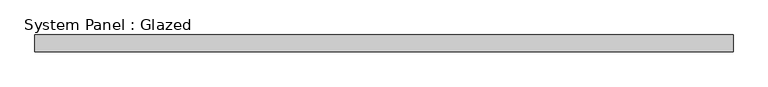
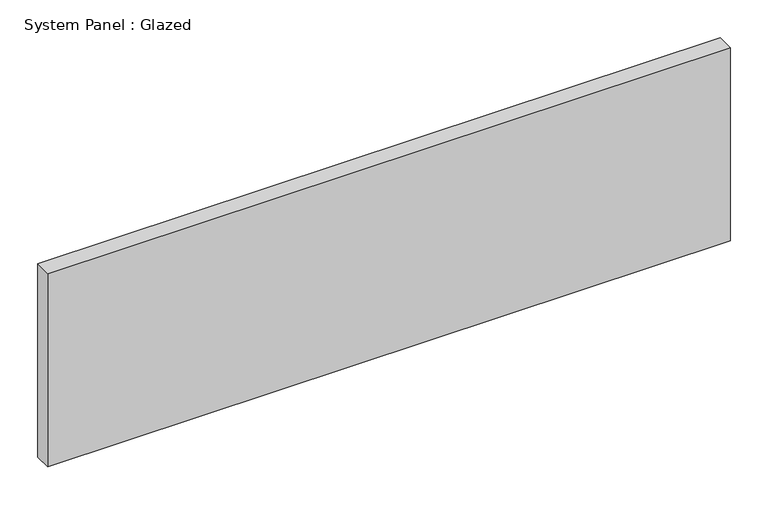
"""IFC4 building model written with IfcOpenShell, lengths in millimetres: plate geometry, System Panel : Glazed."""

from ifc_helpers import new_model, si_unit, origin, origin_with_axes, place, context, project, spatial, polyline, outline, extrude, source, transform, mapped, element, save


def system_panel_glazed_088600c4(model_context):
    return source(origin(), model_context, "Body", "SweptSolid", [
        extrude(outline(polyline([(519.3392857, 19.05), (-519.3392857, 19.05), (-519.3392857, 44.45), (519.3392857, 44.45), (519.3392857, 19.05)])), origin_with_axes(), (0.0, 0.0, 1.0), 310.8709562),
    ])


if __name__ == "__main__":
    model = new_model("IFC4")
    model_context = context("Model", 3, world=origin())
    ifc_project = project(units=[si_unit("LENGTHUNIT", "METRE", prefix="MILLI")], contexts=[model_context])
    site = spatial("IfcSite", under=ifc_project)
    building = spatial("IfcBuilding", under=site)
    placement = place(None, origin())
    system_panel_glazed_shape = system_panel_glazed_088600c4(model_context)
    element("IfcPlate", 1, ObjectType="System Panel : Glazed", at=placement, inside=building, context=model_context, shape_type="MappedRepresentation", body=[
        mapped(system_panel_glazed_shape, transform((0.0, 0.0, 0.0), x_axis=(1.0, 0.0, 0.0), y_axis=(0.0, 1.0, 0.0), z_axis=(0.0, 0.0, 1.0))),
    ])
    save(model, "model.ifc")
